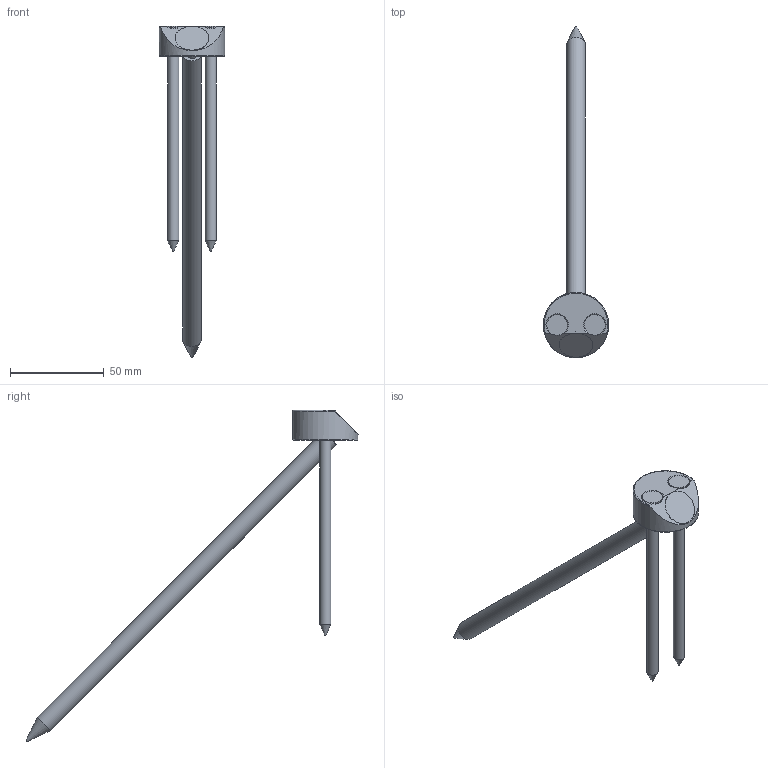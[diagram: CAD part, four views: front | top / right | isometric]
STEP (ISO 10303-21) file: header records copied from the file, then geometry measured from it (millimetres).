
FILE_DESCRIPTION(/* description */ ('Unknown'),/* implementation_level */ '2;1');
FILE_NAME(/* name */ 'T-Joint_D35_W45_SK-10x240_2xSK-6x120',/* time_stamp */ '2020-07-13T10:16:07+02:00',/* author */ ('Unknown'),/* organization */ ('Unknown'),/* preprocessor_version */ 'ST-DEVELOPER v16.7',/* originating_system */ 'DEX',/* authorisation */ $);
FILE_SCHEMA (('AUTOMOTIVE_DESIGN {1 0 10303 214 3 1 1}'));
Length unit declared in the file: millimetre
Products named in the file (4): T-Joint_D35_W45_SK-10x240_2xSK-6x120; T-Joint_D35_W45; SK Schraube 6x120_ohne_Gewinde; SK Schraube 10x240_ohne_Gewinde_22042020
Assembly tree (4 placements, depth 2):
  T-Joint_D35_W45_SK-10x240_2xSK-6x120
    T-Joint_D35_W45
    SK Schraube 6x120_ohne_Gewinde  x2
    SK Schraube 10x240_ohne_Gewinde_22042020
Bounding box: 34.78 x 176.69 x 176.42 mm (x, y, z)
Volume: 35795.3 mm3; surface area: 16553 mm2
Topology: 4 solids, 4 shells, 35 faces, 73 edges, 45 vertices
Faces by surface type: cylinder 12, plane 11, cone 9, torus 3
Full cylindrical faces by diameter (mm): 6 x2, 6.2 x2, 6.3 x1, 10 x2, 11 x2, 12.5 x1, 18 x1, 34.8 x1
Entity records: 771 total; most frequent: DIRECTION 130, CARTESIAN_POINT 126, ORIENTED_EDGE 76, AXIS2_PLACEMENT_3D 63, EDGE_LOOP 53, FACE_BOUND 53, EDGE_CURVE 38, VERTEX_POINT 33
